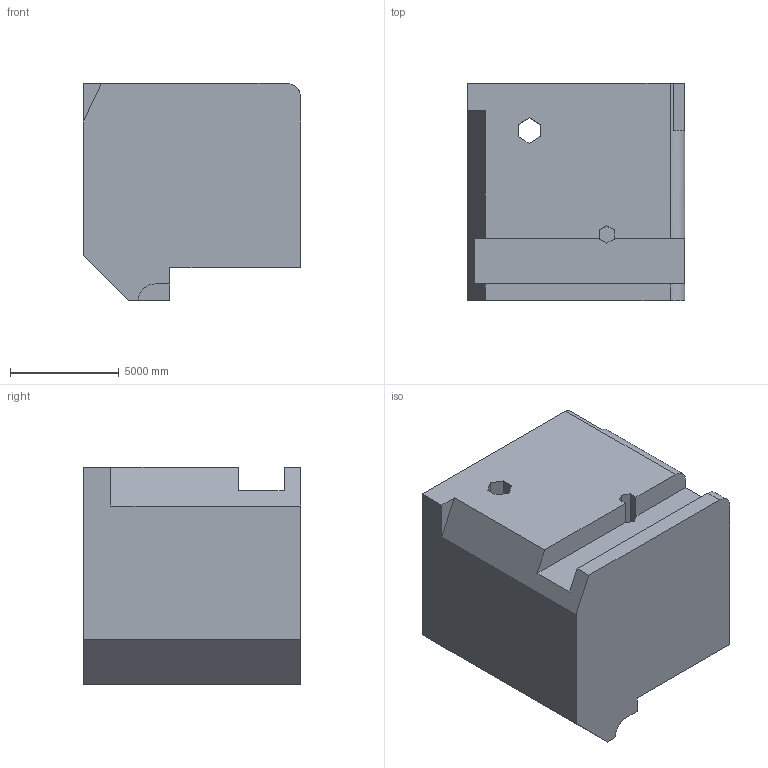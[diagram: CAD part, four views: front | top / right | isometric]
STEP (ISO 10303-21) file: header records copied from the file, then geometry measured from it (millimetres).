
FILE_DESCRIPTION (( 'STEP AP203' ), '1' );
FILE_NAME ('185.STEP', '2022-09-06T14:41:27', ( 'user' ), ( '' ), 'SwSTEP 2.0', 'SolidWorks 2021', '' );
FILE_SCHEMA (( 'CONFIG_CONTROL_DESIGN' ));
Length unit declared in the file: centimetre
Products named in the file (1): 185
Bounding box: 10000 x 10000 x 10000 mm (x, y, z)
Volume: 834221318574.6 mm3; surface area: 616778779 mm2
Topology: 1 solids, 1 shells, 38 faces, 108 edges, 72 vertices
Faces by surface type: plane 35, cylinder 3
Entity records: 1300 total; most frequent: CARTESIAN_POINT 219, ORIENTED_EDGE 216, DIRECTION 193, EDGE_CURVE 108, VECTOR 101, LINE 101, VERTEX_POINT 72, AXIS2_PLACEMENT_3D 46
